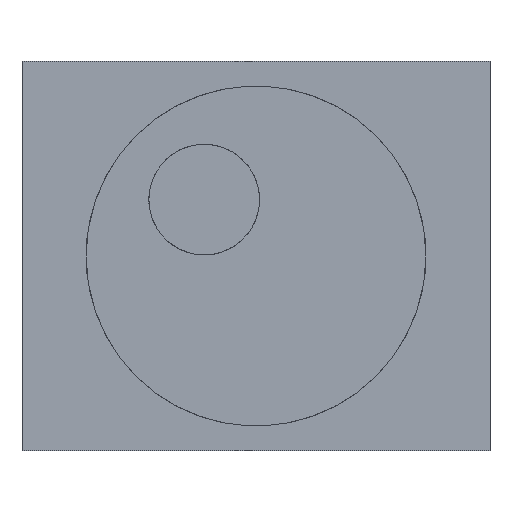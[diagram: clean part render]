
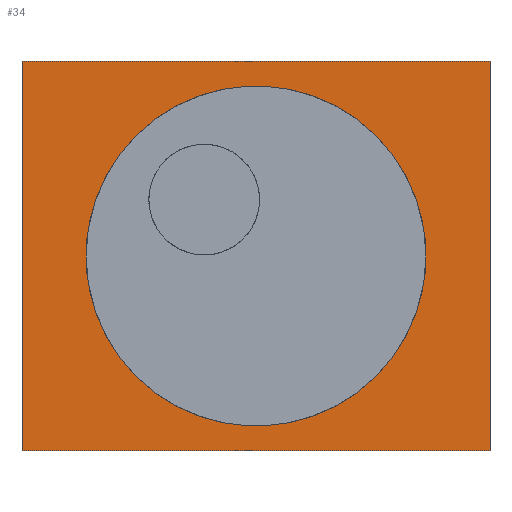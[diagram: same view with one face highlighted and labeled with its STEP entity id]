
A CAD part, top view. The second image highlights one B-rep face of the part: STEP entity #34.
In plain terms, the highlighted planar face has unit normal (0, 0, 1).
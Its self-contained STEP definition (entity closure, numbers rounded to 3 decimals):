
#34=ADVANCED_FACE('',(#56,#39),#265,.T.);
#39=FACE_BOUND('',#78,.T.);
#56=FACE_OUTER_BOUND('',#77,.T.);
#77=EDGE_LOOP('',(#142,#143,#144,#145));
#78=EDGE_LOOP('',(#146,#147));
#142=ORIENTED_EDGE('',*,*,#176,.T.);
#143=ORIENTED_EDGE('',*,*,#178,.T.);
#144=ORIENTED_EDGE('',*,*,#180,.T.);
#145=ORIENTED_EDGE('',*,*,#182,.T.);
#146=ORIENTED_EDGE('',*,*,#184,.T.);
#147=ORIENTED_EDGE('',*,*,#187,.T.);
#176=EDGE_CURVE('',#241,#242,#199,.T.);
#178=EDGE_CURVE('',#242,#243,#201,.T.);
#180=EDGE_CURVE('',#243,#244,#203,.T.);
#182=EDGE_CURVE('',#244,#241,#205,.T.);
#184=EDGE_CURVE('',#245,#247,#221,.T.);
#187=EDGE_CURVE('',#247,#245,#223,.T.);
#199=B_SPLINE_CURVE_WITH_KNOTS('',1,(#525,#526),.UNSPECIFIED.,.F.,.F.,(2,
2),(0.,2235.),.UNSPECIFIED.);
#201=B_SPLINE_CURVE_WITH_KNOTS('',1,(#529,#530),.UNSPECIFIED.,.F.,.F.,(2,
2),(2235.,4200.),.UNSPECIFIED.);
#203=B_SPLINE_CURVE_WITH_KNOTS('',1,(#533,#534),.UNSPECIFIED.,.F.,.F.,(2,
2),(4200.,6435.),.UNSPECIFIED.);
#205=B_SPLINE_CURVE_WITH_KNOTS('',1,(#537,#538),.UNSPECIFIED.,.F.,.F.,(2,
2),(6435.,8400.),.UNSPECIFIED.);
#221=(
BOUNDED_CURVE()
B_SPLINE_CURVE(2,(#541,#542,#543,#544,#545),.UNSPECIFIED.,.F.,.F.)
B_SPLINE_CURVE_WITH_KNOTS((3,2,3),(-5380.532,-4035.399,
-2690.266),.UNSPECIFIED.)
CURVE()
GEOMETRIC_REPRESENTATION_ITEM()
RATIONAL_B_SPLINE_CURVE((1.,0.707,1.,0.707,1.))
REPRESENTATION_ITEM('')
);
#223=(
BOUNDED_CURVE()
B_SPLINE_CURVE(2,(#553,#554,#555,#556,#557),.UNSPECIFIED.,.F.,.F.)
B_SPLINE_CURVE_WITH_KNOTS((3,2,3),(-2690.266,-1345.133,
0.),.UNSPECIFIED.)
CURVE()
GEOMETRIC_REPRESENTATION_ITEM()
RATIONAL_B_SPLINE_CURVE((1.,0.707,1.,0.707,1.))
REPRESENTATION_ITEM('')
);
#241=VERTEX_POINT('',#503);
#242=VERTEX_POINT('',#504);
#243=VERTEX_POINT('',#505);
#244=VERTEX_POINT('',#506);
#245=VERTEX_POINT('',#507);
#247=VERTEX_POINT('',#509);
#265=PLANE('',#370);
#370=AXIS2_PLACEMENT_3D('',#496,#391,$);
#391=DIRECTION('',(0.,0.,1.));
#496=CARTESIAN_POINT('',(0.002,0.,12.));
#503=CARTESIAN_POINT('',(0.002,0.,12.));
#504=CARTESIAN_POINT('',(3000.241,0.,12.));
#505=CARTESIAN_POINT('',(3000.241,2500.,12.));
#506=CARTESIAN_POINT('',(0.002,2500.,12.));
#507=CARTESIAN_POINT('',(2589.61,1250.,12.));
#509=CARTESIAN_POINT('',(410.632,1250.,12.));
#525=CARTESIAN_POINT('',(0.002,0.,12.));
#526=CARTESIAN_POINT('',(3000.241,0.,12.));
#529=CARTESIAN_POINT('',(3000.241,0.,12.));
#530=CARTESIAN_POINT('',(3000.241,2500.,12.));
#533=CARTESIAN_POINT('',(3000.241,2500.,12.));
#534=CARTESIAN_POINT('',(0.002,2500.,12.));
#537=CARTESIAN_POINT('',(0.002,2500.,12.));
#538=CARTESIAN_POINT('',(0.002,0.,12.));
#541=CARTESIAN_POINT('',(2589.61,1250.,12.));
#542=CARTESIAN_POINT('',(2589.61,160.511,12.));
#543=CARTESIAN_POINT('',(1500.121,160.511,12.));
#544=CARTESIAN_POINT('',(410.632,160.511,12.));
#545=CARTESIAN_POINT('',(410.632,1250.,12.));
#553=CARTESIAN_POINT('',(410.632,1250.,12.));
#554=CARTESIAN_POINT('',(410.632,2339.489,12.));
#555=CARTESIAN_POINT('',(1500.121,2339.489,12.));
#556=CARTESIAN_POINT('',(2589.61,2339.489,12.));
#557=CARTESIAN_POINT('',(2589.61,1250.,12.));
